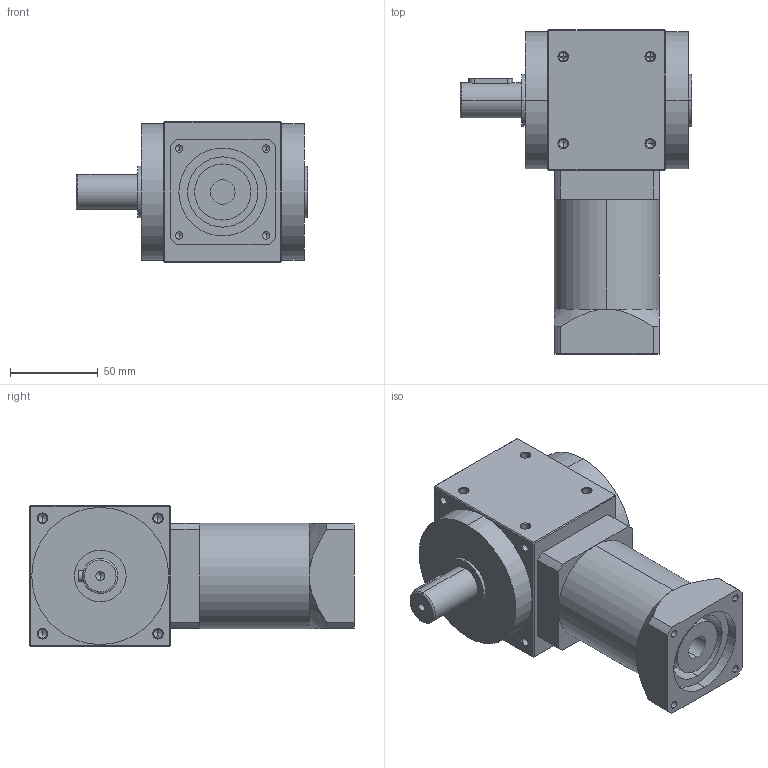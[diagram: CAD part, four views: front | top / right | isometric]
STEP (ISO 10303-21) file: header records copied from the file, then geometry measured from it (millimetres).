
FILE_DESCRIPTION (( 'STEP AP214' ), '1' );
FILE_NAME ('AAW080AS-30-2P-L1(12-100) 14-50-70-M5.STEP', '2020-11-23T05:50:17', ( '微软用户' ), ( '微软中国' ), 'SwSTEP 2.0', 'SolidWorks 2014', '' );
FILE_SCHEMA (( 'AUTOMOTIVE_DESIGN' ));
Length unit declared in the file: millimetre
Products named in the file (2): AAW080AS-30-2P-L1(12-100) 14-50-70-M5
Bounding box: 132 x 184.5 x 80 mm (x, y, z)
Volume: 858108.2 mm3; surface area: 83745.3 mm2
Topology: 2 solids, 2 shells, 242 faces, 548 edges, 304 vertices
Faces by surface type: cone 105, cylinder 82, plane 53, bspline 2
Entity records: 9390 total; most frequent: CARTESIAN_POINT 1401, DIRECTION 1172, ORIENTED_EDGE 1028, EDGE_CURVE 514, AXIS2_PLACEMENT_3D 467, VERTEX_POINT 304, EDGE_LOOP 278, UNCERTAINTY_MEASURE_WITH_UNIT 246
